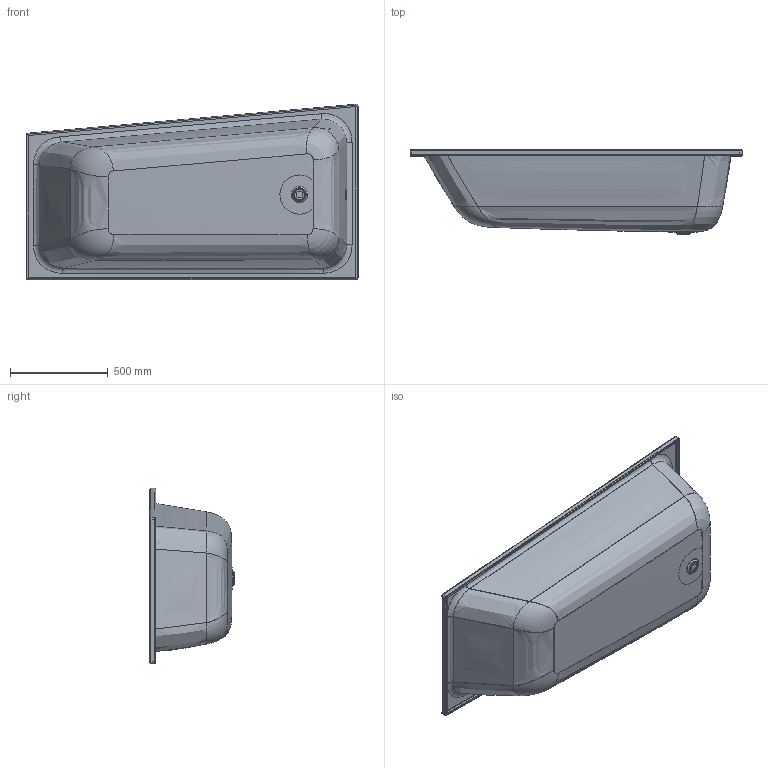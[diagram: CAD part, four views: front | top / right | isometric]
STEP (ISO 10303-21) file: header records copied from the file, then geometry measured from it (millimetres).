
FILE_DESCRIPTION((' '),'2;1');
FILE_NAME( '177f1b94d55ef9c3.stp', '2021-03-02T07:56:29', (' '), ('--- Datakit www.datakit.com---'), ' Datakit CrossCadWare V2021.1 Jan 6 2021', 'DATAKIT 2021 (c)', ' ');
FILE_SCHEMA(('CONFIG_CONTROL_DESIGN'));
Length unit declared in the file: millimetre
Products named in the file (1): 177f1b93d5da21c3
Bounding box: 1699 x 430 x 898 mm (x, y, z)
Volume: 6461189.3 mm3; surface area: 5467083.1 mm2
Topology: 3 solids, 3 shells, 149 faces, 341 edges, 202 vertices
Faces by surface type: cylinder 34, torus 32, bspline 32, plane 27, offset 20, cone 4
Full cylindrical faces by diameter (mm): 35 x1, 52 x2
Entity records: 28958 total; most frequent: CARTESIAN_POINT 25994, ORIENTED_EDGE 644, DIRECTION 500, EDGE_CURVE 322, AXIS2_PLACEMENT_3D 209, VERTEX_POINT 198, EDGE_LOOP 171, ADVANCED_FACE 149
